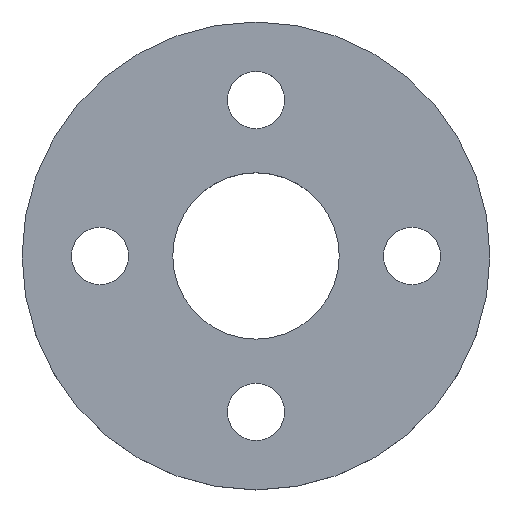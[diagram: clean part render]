
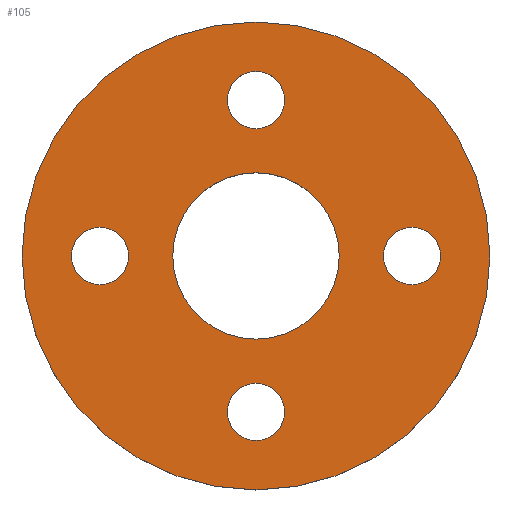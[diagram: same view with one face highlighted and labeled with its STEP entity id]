
A CAD part, top view. The second image highlights one B-rep face of the part: STEP entity #105.
In plain terms, the highlighted planar face has unit normal (0, 0, 1).
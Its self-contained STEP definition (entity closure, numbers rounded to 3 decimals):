
#21 = EDGE_CURVE('',#22,#22,#24,.T.);
#22 = VERTEX_POINT('',#23);
#23 = CARTESIAN_POINT('',(9.,0.,-7.4));
#24 = SURFACE_CURVE('',#25,(#30,#42),.PCURVE_S1.);
#25 = CIRCLE('',#26,9.);
#26 = AXIS2_PLACEMENT_3D('',#27,#28,#29);
#27 = CARTESIAN_POINT('',(0.,0.,-7.4));
#28 = DIRECTION('',(0.,0.,1.));
#29 = DIRECTION('',(1.,0.,-0.));
#30 = PCURVE('',#31,#36);
#31 = CYLINDRICAL_SURFACE('',#32,9.);
#32 = AXIS2_PLACEMENT_3D('',#33,#34,#35);
#33 = CARTESIAN_POINT('',(0.,0.,-9.4));
#34 = DIRECTION('',(0.,0.,1.));
#35 = DIRECTION('',(1.,0.,-0.));
#36 = DEFINITIONAL_REPRESENTATION('',(#37),#41);
#37 = LINE('',#38,#39);
#38 = CARTESIAN_POINT('',(0.,2.));
#39 = VECTOR('',#40,1.);
#40 = DIRECTION('',(1.,0.));
#41 = ( GEOMETRIC_REPRESENTATION_CONTEXT(2) 
PARAMETRIC_REPRESENTATION_CONTEXT() REPRESENTATION_CONTEXT('2D SPACE',''
  ) );
#42 = PCURVE('',#43,#48);
#43 = PLANE('',#44);
#44 = AXIS2_PLACEMENT_3D('',#45,#46,#47);
#45 = CARTESIAN_POINT('',(0.,0.,-7.4));
#46 = DIRECTION('',(0.,0.,1.));
#47 = DIRECTION('',(1.,0.,-0.));
#48 = DEFINITIONAL_REPRESENTATION('',(#49),#53);
#49 = CIRCLE('',#50,9.);
#50 = AXIS2_PLACEMENT_2D('',#51,#52);
#51 = CARTESIAN_POINT('',(0.,0.));
#52 = DIRECTION('',(1.,0.));
#53 = ( GEOMETRIC_REPRESENTATION_CONTEXT(2) 
PARAMETRIC_REPRESENTATION_CONTEXT() REPRESENTATION_CONTEXT('2D SPACE',''
  ) );
#105 = ADVANCED_FACE('',(#106,#109,#140,#171,#202,#233),#43,.T.);
#106 = FACE_BOUND('',#107,.T.);
#107 = EDGE_LOOP('',(#108));
#108 = ORIENTED_EDGE('',*,*,#21,.T.);
#109 = FACE_BOUND('',#110,.T.);
#110 = EDGE_LOOP('',(#111));
#111 = ORIENTED_EDGE('',*,*,#112,.F.);
#112 = EDGE_CURVE('',#113,#113,#115,.T.);
#113 = VERTEX_POINT('',#114);
#114 = CARTESIAN_POINT('',(1.1,-6.,-7.4));
#115 = SURFACE_CURVE('',#116,(#121,#128),.PCURVE_S1.);
#116 = CIRCLE('',#117,1.1);
#117 = AXIS2_PLACEMENT_3D('',#118,#119,#120);
#118 = CARTESIAN_POINT('',(0.,-6.,-7.4));
#119 = DIRECTION('',(0.,0.,1.));
#120 = DIRECTION('',(1.,0.,-0.));
#121 = PCURVE('',#43,#122);
#122 = DEFINITIONAL_REPRESENTATION('',(#123),#127);
#123 = CIRCLE('',#124,1.1);
#124 = AXIS2_PLACEMENT_2D('',#125,#126);
#125 = CARTESIAN_POINT('',(0.,-6.));
#126 = DIRECTION('',(1.,0.));
#127 = ( GEOMETRIC_REPRESENTATION_CONTEXT(2) 
PARAMETRIC_REPRESENTATION_CONTEXT() REPRESENTATION_CONTEXT('2D SPACE',''
  ) );
#128 = PCURVE('',#129,#134);
#129 = CYLINDRICAL_SURFACE('',#130,1.1);
#130 = AXIS2_PLACEMENT_3D('',#131,#132,#133);
#131 = CARTESIAN_POINT('',(0.,-6.,-9.41));
#132 = DIRECTION('',(0.,0.,1.));
#133 = DIRECTION('',(1.,0.,-0.));
#134 = DEFINITIONAL_REPRESENTATION('',(#135),#139);
#135 = LINE('',#136,#137);
#136 = CARTESIAN_POINT('',(0.,2.01));
#137 = VECTOR('',#138,1.);
#138 = DIRECTION('',(1.,0.));
#139 = ( GEOMETRIC_REPRESENTATION_CONTEXT(2) 
PARAMETRIC_REPRESENTATION_CONTEXT() REPRESENTATION_CONTEXT('2D SPACE',''
  ) );
#140 = FACE_BOUND('',#141,.T.);
#141 = EDGE_LOOP('',(#142));
#142 = ORIENTED_EDGE('',*,*,#143,.F.);
#143 = EDGE_CURVE('',#144,#144,#146,.T.);
#144 = VERTEX_POINT('',#145);
#145 = CARTESIAN_POINT('',(-4.9,0.,-7.4));
#146 = SURFACE_CURVE('',#147,(#152,#159),.PCURVE_S1.);
#147 = CIRCLE('',#148,1.1);
#148 = AXIS2_PLACEMENT_3D('',#149,#150,#151);
#149 = CARTESIAN_POINT('',(-6.,0.,-7.4));
#150 = DIRECTION('',(0.,0.,1.));
#151 = DIRECTION('',(1.,0.,-0.));
#152 = PCURVE('',#43,#153);
#153 = DEFINITIONAL_REPRESENTATION('',(#154),#158);
#154 = CIRCLE('',#155,1.1);
#155 = AXIS2_PLACEMENT_2D('',#156,#157);
#156 = CARTESIAN_POINT('',(-6.,0.));
#157 = DIRECTION('',(1.,0.));
#158 = ( GEOMETRIC_REPRESENTATION_CONTEXT(2) 
PARAMETRIC_REPRESENTATION_CONTEXT() REPRESENTATION_CONTEXT('2D SPACE',''
  ) );
#159 = PCURVE('',#160,#165);
#160 = CYLINDRICAL_SURFACE('',#161,1.1);
#161 = AXIS2_PLACEMENT_3D('',#162,#163,#164);
#162 = CARTESIAN_POINT('',(-6.,0.,-9.41));
#163 = DIRECTION('',(0.,0.,1.));
#164 = DIRECTION('',(1.,0.,-0.));
#165 = DEFINITIONAL_REPRESENTATION('',(#166),#170);
#166 = LINE('',#167,#168);
#167 = CARTESIAN_POINT('',(0.,2.01));
#168 = VECTOR('',#169,1.);
#169 = DIRECTION('',(1.,0.));
#170 = ( GEOMETRIC_REPRESENTATION_CONTEXT(2) 
PARAMETRIC_REPRESENTATION_CONTEXT() REPRESENTATION_CONTEXT('2D SPACE',''
  ) );
#171 = FACE_BOUND('',#172,.T.);
#172 = EDGE_LOOP('',(#173));
#173 = ORIENTED_EDGE('',*,*,#174,.F.);
#174 = EDGE_CURVE('',#175,#175,#177,.T.);
#175 = VERTEX_POINT('',#176);
#176 = CARTESIAN_POINT('',(3.2,0.,-7.4));
#177 = SURFACE_CURVE('',#178,(#183,#190),.PCURVE_S1.);
#178 = CIRCLE('',#179,3.2);
#179 = AXIS2_PLACEMENT_3D('',#180,#181,#182);
#180 = CARTESIAN_POINT('',(0.,0.,-7.4));
#181 = DIRECTION('',(0.,0.,1.));
#182 = DIRECTION('',(1.,0.,-0.));
#183 = PCURVE('',#43,#184);
#184 = DEFINITIONAL_REPRESENTATION('',(#185),#189);
#185 = CIRCLE('',#186,3.2);
#186 = AXIS2_PLACEMENT_2D('',#187,#188);
#187 = CARTESIAN_POINT('',(0.,0.));
#188 = DIRECTION('',(1.,0.));
#189 = ( GEOMETRIC_REPRESENTATION_CONTEXT(2) 
PARAMETRIC_REPRESENTATION_CONTEXT() REPRESENTATION_CONTEXT('2D SPACE',''
  ) );
#190 = PCURVE('',#191,#196);
#191 = CYLINDRICAL_SURFACE('',#192,3.2);
#192 = AXIS2_PLACEMENT_3D('',#193,#194,#195);
#193 = CARTESIAN_POINT('',(0.,0.,-9.41));
#194 = DIRECTION('',(0.,0.,1.));
#195 = DIRECTION('',(1.,0.,-0.));
#196 = DEFINITIONAL_REPRESENTATION('',(#197),#201);
#197 = LINE('',#198,#199);
#198 = CARTESIAN_POINT('',(0.,2.01));
#199 = VECTOR('',#200,1.);
#200 = DIRECTION('',(1.,0.));
#201 = ( GEOMETRIC_REPRESENTATION_CONTEXT(2) 
PARAMETRIC_REPRESENTATION_CONTEXT() REPRESENTATION_CONTEXT('2D SPACE',''
  ) );
#202 = FACE_BOUND('',#203,.T.);
#203 = EDGE_LOOP('',(#204));
#204 = ORIENTED_EDGE('',*,*,#205,.F.);
#205 = EDGE_CURVE('',#206,#206,#208,.T.);
#206 = VERTEX_POINT('',#207);
#207 = CARTESIAN_POINT('',(7.1,0.,-7.4));
#208 = SURFACE_CURVE('',#209,(#214,#221),.PCURVE_S1.);
#209 = CIRCLE('',#210,1.1);
#210 = AXIS2_PLACEMENT_3D('',#211,#212,#213);
#211 = CARTESIAN_POINT('',(6.,0.,-7.4));
#212 = DIRECTION('',(0.,0.,1.));
#213 = DIRECTION('',(1.,0.,-0.));
#214 = PCURVE('',#43,#215);
#215 = DEFINITIONAL_REPRESENTATION('',(#216),#220);
#216 = CIRCLE('',#217,1.1);
#217 = AXIS2_PLACEMENT_2D('',#218,#219);
#218 = CARTESIAN_POINT('',(6.,0.));
#219 = DIRECTION('',(1.,0.));
#220 = ( GEOMETRIC_REPRESENTATION_CONTEXT(2) 
PARAMETRIC_REPRESENTATION_CONTEXT() REPRESENTATION_CONTEXT('2D SPACE',''
  ) );
#221 = PCURVE('',#222,#227);
#222 = CYLINDRICAL_SURFACE('',#223,1.1);
#223 = AXIS2_PLACEMENT_3D('',#224,#225,#226);
#224 = CARTESIAN_POINT('',(6.,0.,-9.41));
#225 = DIRECTION('',(0.,0.,1.));
#226 = DIRECTION('',(1.,0.,-0.));
#227 = DEFINITIONAL_REPRESENTATION('',(#228),#232);
#228 = LINE('',#229,#230);
#229 = CARTESIAN_POINT('',(0.,2.01));
#230 = VECTOR('',#231,1.);
#231 = DIRECTION('',(1.,0.));
#232 = ( GEOMETRIC_REPRESENTATION_CONTEXT(2) 
PARAMETRIC_REPRESENTATION_CONTEXT() REPRESENTATION_CONTEXT('2D SPACE',''
  ) );
#233 = FACE_BOUND('',#234,.T.);
#234 = EDGE_LOOP('',(#235));
#235 = ORIENTED_EDGE('',*,*,#236,.F.);
#236 = EDGE_CURVE('',#237,#237,#239,.T.);
#237 = VERTEX_POINT('',#238);
#238 = CARTESIAN_POINT('',(1.1,6.,-7.4));
#239 = SURFACE_CURVE('',#240,(#245,#252),.PCURVE_S1.);
#240 = CIRCLE('',#241,1.1);
#241 = AXIS2_PLACEMENT_3D('',#242,#243,#244);
#242 = CARTESIAN_POINT('',(0.,6.,-7.4));
#243 = DIRECTION('',(0.,0.,1.));
#244 = DIRECTION('',(1.,0.,-0.));
#245 = PCURVE('',#43,#246);
#246 = DEFINITIONAL_REPRESENTATION('',(#247),#251);
#247 = CIRCLE('',#248,1.1);
#248 = AXIS2_PLACEMENT_2D('',#249,#250);
#249 = CARTESIAN_POINT('',(0.,6.));
#250 = DIRECTION('',(1.,0.));
#251 = ( GEOMETRIC_REPRESENTATION_CONTEXT(2) 
PARAMETRIC_REPRESENTATION_CONTEXT() REPRESENTATION_CONTEXT('2D SPACE',''
  ) );
#252 = PCURVE('',#253,#258);
#253 = CYLINDRICAL_SURFACE('',#254,1.1);
#254 = AXIS2_PLACEMENT_3D('',#255,#256,#257);
#255 = CARTESIAN_POINT('',(0.,6.,-9.41));
#256 = DIRECTION('',(0.,0.,1.));
#257 = DIRECTION('',(1.,0.,-0.));
#258 = DEFINITIONAL_REPRESENTATION('',(#259),#263);
#259 = LINE('',#260,#261);
#260 = CARTESIAN_POINT('',(0.,2.01));
#261 = VECTOR('',#262,1.);
#262 = DIRECTION('',(1.,0.));
#263 = ( GEOMETRIC_REPRESENTATION_CONTEXT(2) 
PARAMETRIC_REPRESENTATION_CONTEXT() REPRESENTATION_CONTEXT('2D SPACE',''
  ) );
